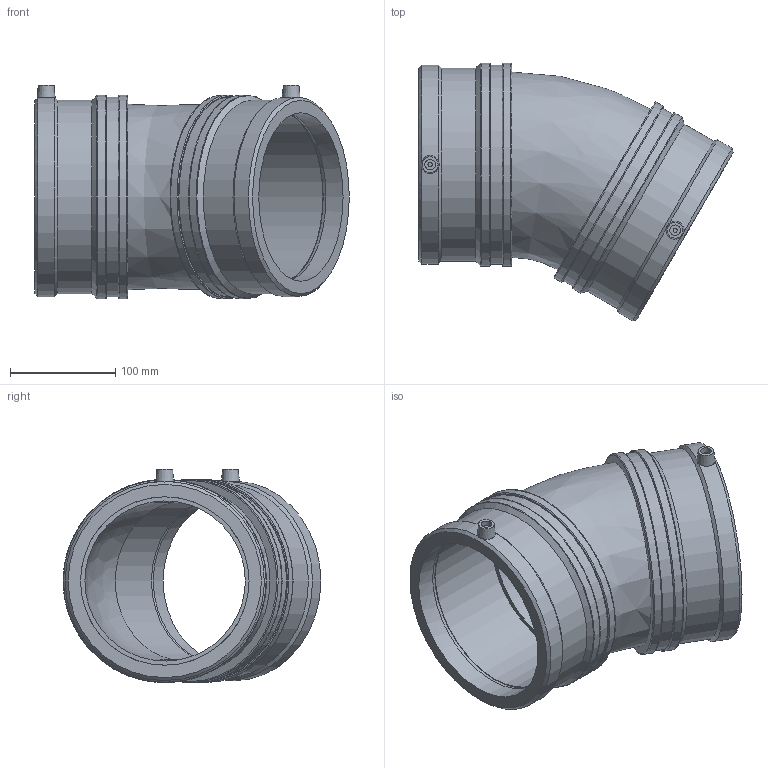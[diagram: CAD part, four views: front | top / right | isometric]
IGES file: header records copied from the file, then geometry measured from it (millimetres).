
Global section: file name: 463304160_473304160.ipt; native system: Autodesk Inventor 2015; preprocessor: unknown; author: KIM; date: 20171106.093442; units: millimetre
Bounding box: 298.58 x 244.7 x 202.5 mm (x, y, z)
Volume: 1865305.5 mm3; surface area: 325941.8 mm2
Topology: 1 solids, 1 shells, 58 faces, 133 edges, 91 vertices
Faces by surface type: plane 18, revolution 17, cylinder 12, cone 10, bspline 1
Full cylindrical faces by diameter (mm): 4 x2, 183.466 x2, 189.14 x2, 193 x4
